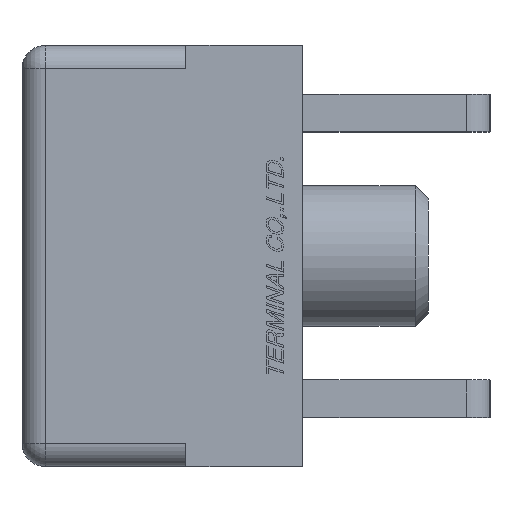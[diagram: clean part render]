
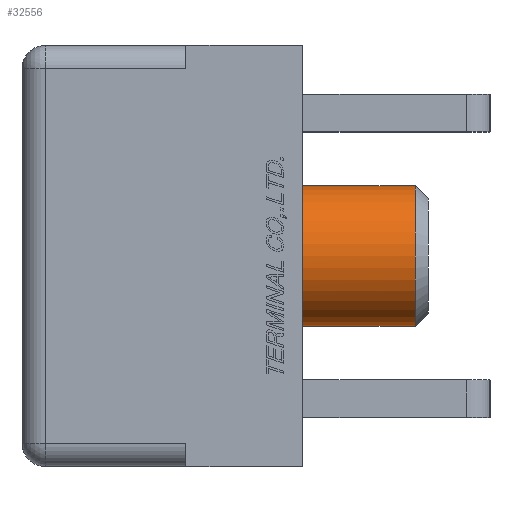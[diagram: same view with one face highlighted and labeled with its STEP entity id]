
A CAD part, left-side view. The second image highlights one B-rep face of the part: STEP entity #32556.
In plain terms, the highlighted cylindrical face has radius 1.5 mm (diameter 3 mm), a full revolution.
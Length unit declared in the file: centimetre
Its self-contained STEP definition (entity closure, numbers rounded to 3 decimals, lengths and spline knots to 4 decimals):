
#10051=VERTEX_POINT('',#40905);
#10052=VERTEX_POINT('',#40907);
#13291=CIRCLE('',#54273,0.15);
#13292=CIRCLE('',#54274,0.15);
#13681=EDGE_CURVE('',#10051,#10051,#13291,.T.);
#13682=EDGE_CURVE('',#10052,#10052,#13292,.T.);
#18607=ORIENTED_EDGE('',*,*,#13682,.F.);
#18608=ORIENTED_EDGE('',*,*,#13681,.F.);
#28356=EDGE_LOOP('',(#18607));
#28357=EDGE_LOOP('',(#18608));
#30457=FACE_BOUND('',#28356,.T.);
#30458=FACE_BOUND('',#28357,.T.);
#32556=ADVANCED_FACE('',(#30457,#30458),#34480,.T.);
#34480=CYLINDRICAL_SURFACE('',#54268,0.15);
#34768=DIRECTION('',(0.,-1.,0.));
#34769=DIRECTION('',(0.15,0.,0.));
#34778=DIRECTION('',(0.,-1.,0.));
#34779=DIRECTION('',(-0.15,0.,0.));
#34780=DIRECTION('',(0.,1.,0.));
#34781=DIRECTION('',(0.15,0.,-0.001));
#40896=CARTESIAN_POINT('',(-0.31,0.3321,0.));
#40904=CARTESIAN_POINT('',(-0.31,-0.2398,0.));
#40905=CARTESIAN_POINT('',(-0.16,-0.2398,0.));
#40906=CARTESIAN_POINT('',(-0.31,0.25,0.));
#40907=CARTESIAN_POINT('',(-0.16,0.25,-0.001));
#54268=AXIS2_PLACEMENT_3D('',#40896,#34768,#34769);
#54273=AXIS2_PLACEMENT_3D('',#40904,#34778,#34779);
#54274=AXIS2_PLACEMENT_3D('',#40906,#34780,#34781);
